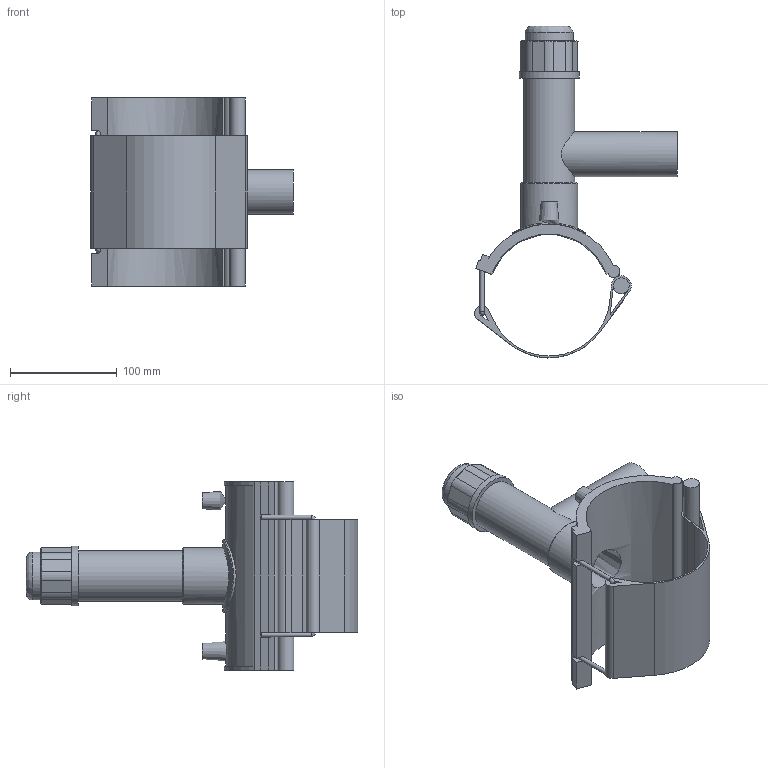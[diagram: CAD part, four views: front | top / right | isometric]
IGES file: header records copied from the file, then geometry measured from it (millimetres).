
Global section: file name: 5913BB03040013.ipt; native system: Autodesk Inventor 2019; preprocessor: unknown; author: KIM; date: 20210830.101035; units: millimetre
Bounding box: 189.47 x 310.62 x 176.02 mm (x, y, z)
Volume: 592561 mm3; surface area: 201875.6 mm2
Topology: 2 solids, 2 shells, 124 faces, 314 edges, 195 vertices
Faces by surface type: plane 69, cylinder 29, revolution 12, cone 11, bspline 3
Full cylindrical faces by diameter (mm): 4 x2, 4.108 x2, 14.833 x1, 42.1 x1, 44.91 x1, 47.717 x1, 53.33 x1, 56.137 x1, 68.46 x1
